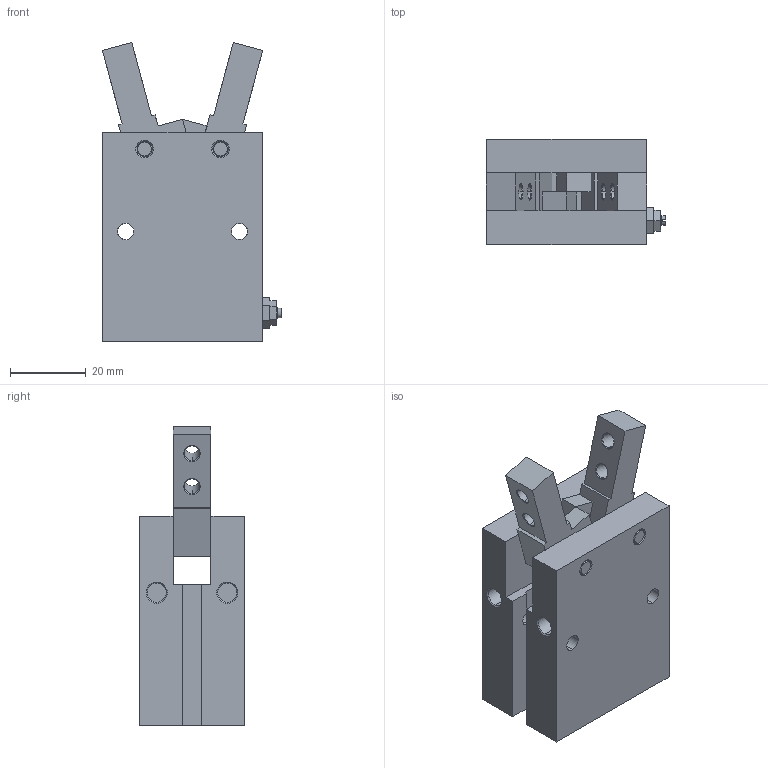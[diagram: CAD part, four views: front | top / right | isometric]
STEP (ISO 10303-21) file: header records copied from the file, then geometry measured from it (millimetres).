
FILE_DESCRIPTION (( 'STEP AP203' ), '1' );
FILE_NAME ('CHC2-20D.STEP', '2010-11-26T12:53:06', ( '.' ), ( '' ), 'SwSTEP 2.0', 'SolidWorks 2009', '' );
FILE_SCHEMA (( 'CONFIG_CONTROL_DESIGN' ));
Length unit declared in the file: millimetre
Products named in the file (3): CHC2-20D; 1_20D; 2_20
Assembly tree (3 placements, depth 2):
  CHC2-20D
    2_20  x2
    1_20D
Bounding box: 47.21 x 27.6 x 78.78 mm (x, y, z)
Volume: 56859.4 mm3; surface area: 18124.5 mm2
Topology: 3 solids, 3 shells, 192 faces, 470 edges, 296 vertices
Faces by surface type: plane 88, cylinder 54, cone 50
Entity records: 5020 total; most frequent: DIRECTION 847, CARTESIAN_POINT 822, ORIENTED_EDGE 778, EDGE_CURVE 389, AXIS2_PLACEMENT_3D 303, VERTEX_POINT 246, VECTOR 241, LINE 241
